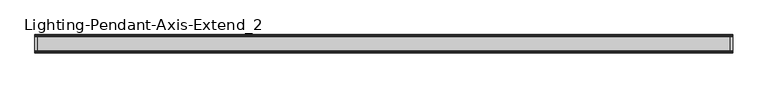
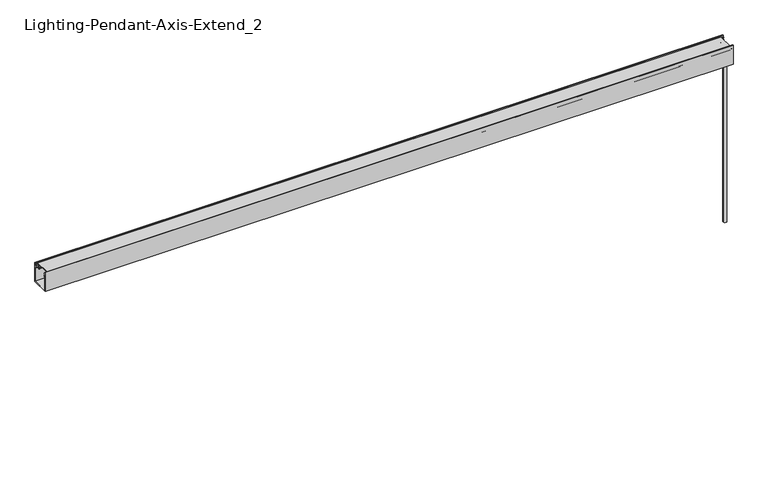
"""IFC4 building model written with IfcOpenShell, lengths in millimetres: light fixture geometry, Lighting-Pendant-Axis-Extend_2 : EX2PD-900-80-35-SO-4."""

from ifc_helpers import new_model, si_unit, point, frame, frame_2d, origin, place, context, project, spatial, polyline, circle_curve, trimmed, segment, composite_curve, outline, extrude, source, transform, mapped, element, save
from ifc_brep_helpers import plane_surface, cylinder_surface, advanced_brep


def lighting_pendant_axis_extend_2_0f88a3bf(model_context):
    return source(origin(), model_context, "Body", "SolidModel", [
        advanced_brep(
        [(1223.772, 0.0, 609.6), (1211.072, 0.0, 609.6), (1217.422, 0.0, 609.6), (1223.772, 0.0, 0.0), (1211.072, 0.0, 0.0), (1217.422, 0.0, 0.0)],
        [
            (0, 1, circle_curve(frame((1217.422, 0.0, 609.6), z_axis=(0.0, 0.0, 1.0), x_axis=(-1.0, 0.0, 0.0)), 6.35)),
            (1, 2),
            (2, 0),
            (1, 0, circle_curve(frame((1217.422, 0.0, 609.6), z_axis=(0.0, 0.0, 1.0), x_axis=(-1.0, 0.0, 0.0)), 6.35)),
            (3, 4, circle_curve(frame((1217.422, 0.0, 0.0), z_axis=(0.0, 0.0, 1.0), x_axis=(-1.0, 0.0, 0.0)), 6.35)),
            (4, 1),
            (0, 3),
            (4, 3, circle_curve(frame((1217.422, 0.0, 0.0), z_axis=(0.0, 0.0, 1.0), x_axis=(-1.0, 0.0, 0.0)), 6.35)),
            (5, 4),
            (3, 5),
        ],
        [
            plane_surface(frame((1217.422, 0.0, 609.6), z_axis=(0.0, 0.0, 1.0), x_axis=(-1.0, 0.0, 0.0))),
            cylinder_surface(frame((1217.422, 0.0, 2913.8581012), z_axis=(0.0, 0.0, -1.0), x_axis=(-1.0, 0.0, 0.0)), 6.35),
            plane_surface(frame((1217.422, 0.0, 0.0), z_axis=(0.0, 0.0, -1.0), x_axis=(-1.0, 0.0, 0.0))),
        ],
        [
            (0, [[1, 2, 3]]),
            (0, [[4, -3, -2]]),
            (1, [[5, 6, -1, 7]]),
            (1, [[8, -7, -4, -6]]),
            (2, [[9, -5, 10]]),
            (2, [[-10, -8, -9]]),
        ],
    ),
        extrude(outline(composite_curve([segment(polyline([(-24.1727262, 676.1479991), (-24.5114181, 669.6853737)]), True, "CONTINUOUS"), segment(trimmed(circle_curve(frame_2d((-27.2542, 666.6865)), 4.064), [point((-24.5114181, 669.6853737))], [point((-25.3818814, 663.0794903))], False, "CARTESIAN"), True, "CONTINUOUS"), segment(trimmed(circle_curve(frame_2d((-22.149344, 663.8683457)), 3.3274001), [point((-25.3818814, 663.0794903))], [point((-24.5665956, 661.5817575))], True, "CARTESIAN"), True, "CONTINUOUS"), segment(trimmed(circle_curve(frame_2d((-17.1303177, 668.6160708)), 10.2362001), [point((-24.5665956, 661.5817575))], [point((-23.2119066, 660.3823555))], True, "CARTESIAN"), True, "CONTINUOUS"), segment(trimmed(circle_curve(frame_2d((-23.7023573, 659.7183462)), 0.8255), [point((-23.2119066, 660.3823555))], [point((-24.192808, 659.0543369))], False, "CARTESIAN"), True, "CONTINUOUS"), segment(trimmed(circle_curve(frame_2d((-17.1303169, 668.6160717)), 11.8872013), [point((-24.192808, 659.0543369))], [point((-25.7659952, 660.4471908))], False, "CARTESIAN"), True, "CONTINUOUS"), segment(trimmed(circle_curve(frame_2d((-22.149344, 663.8683457)), 4.9784001), [point((-25.7659952, 660.4471908))], [point((-27.1108807, 664.27776))], False, "CARTESIAN"), True, "CONTINUOUS"), segment(trimmed(circle_curve(frame_2d((-27.2542, 666.6865)), 2.413), [point((-27.1108807, 664.27776))], [point((-25.4753941, 668.3169658))], True, "CARTESIAN"), True, "CONTINUOUS"), segment(trimmed(circle_curve(frame_2d((-23.6029669, 670.0332456)), 2.54), [point((-25.4753941, 668.3169658))], [point((-26.1394859, 670.1661789))], False, "CARTESIAN"), True, "CONTINUOUS"), segment(polyline([(-26.1394859, 670.1661789), (-25.825992, 676.1479991), (-28.829, 676.1479991), (-28.829, 678.053), (28.829, 678.053), (28.829, 676.1479991), (25.825992, 676.1479991), (26.1394859, 670.1661789)]), True, "CONTINUOUS"), segment(trimmed(circle_curve(frame_2d((23.6029669, 670.0332456)), 2.54), [point((26.1394859, 670.1661789))], [point((25.4753941, 668.3169658))], False, "CARTESIAN"), True, "CONTINUOUS"), segment(trimmed(circle_curve(frame_2d((27.2542, 666.6865)), 2.413), [point((25.4753941, 668.3169658))], [point((27.1108807, 664.27776))], True, "CARTESIAN"), True, "CONTINUOUS"), segment(trimmed(circle_curve(frame_2d((22.149344, 663.8683457)), 4.9784001), [point((27.1108807, 664.27776))], [point((25.7659952, 660.4471908))], False, "CARTESIAN"), True, "CONTINUOUS"), segment(trimmed(circle_curve(frame_2d((17.1303169, 668.6160717)), 11.8872013), [point((25.7659952, 660.4471908))], [point((24.192808, 659.0543369))], False, "CARTESIAN"), True, "CONTINUOUS"), segment(trimmed(circle_curve(frame_2d((23.7023573, 659.7183462)), 0.8255), [point((24.192808, 659.0543369))], [point((23.2119066, 660.3823555))], False, "CARTESIAN"), True, "CONTINUOUS"), segment(trimmed(circle_curve(frame_2d((17.1303177, 668.6160708)), 10.2362001), [point((23.2119066, 660.3823555))], [point((24.5665956, 661.5817575))], True, "CARTESIAN"), True, "CONTINUOUS"), segment(trimmed(circle_curve(frame_2d((22.149344, 663.8683457)), 3.3274001), [point((24.5665956, 661.5817575))], [point((25.3818814, 663.0794903))], True, "CARTESIAN"), True, "CONTINUOUS"), segment(trimmed(circle_curve(frame_2d((27.2542, 666.6865)), 4.064), [point((25.3818814, 663.0794903))], [point((24.5114181, 669.6853737))], False, "CARTESIAN"), True, "CONTINUOUS"), segment(polyline([(24.5114181, 669.6853737), (24.1727262, 676.1479991), (-24.1727262, 676.1479991)]), True, "CONTINUOUS")], self_intersect=False)), frame((-1219.2, 0.0, 0.0), z_axis=(1.0, 0.0, 0.0), x_axis=(0.0, 1.0, 0.0)), (0.0, 0.0, 1.0), 2438.4),
        extrude(outline(composite_curve([segment(polyline([(-29.972, 666.1277), (-29.972, 611.632), (29.972, 611.632), (29.972, 666.1277), (28.1325797, 666.1277)]), True, "CONTINUOUS"), segment(trimmed(circle_curve(frame_2d((26.6262297, 666.1277)), 1.5063501), [point((28.1325797, 666.1277))], [point((25.8730546, 664.8231626))], False, "CARTESIAN"), True, "CONTINUOUS"), segment(trimmed(circle_curve(frame_2d((27.0642121, 666.8863079)), 2.382315), [point((25.8730546, 664.8231626))], [point((24.6896516, 667.0783682))], False, "CARTESIAN"), True, "CONTINUOUS"), segment(polyline([(24.6896516, 667.0783682), (28.067, 669.9123), (28.067, 668.1597), (29.972, 668.1597), (29.972, 674.6875), (28.067, 674.6875), (28.067, 673.1635), (26.416, 673.2500252), (26.416, 675.9575), (29.972, 675.9575), (29.972, 681.0375), (32.004, 681.0375), (32.004, 609.6), (-32.004, 609.6), (-32.004, 681.0375), (-29.972, 681.0375), (-29.972, 675.9575), (-26.416, 675.9575), (-26.416, 673.2500252), (-28.067, 673.1635), (-28.067, 674.6875), (-29.972, 674.6875), (-29.972, 668.1597), (-28.067, 668.1597), (-28.067, 669.9123), (-24.6896516, 667.0783682)]), True, "CONTINUOUS"), segment(trimmed(circle_curve(frame_2d((-27.0642121, 666.8863079)), 2.382315), [point((-24.6896516, 667.0783682))], [point((-25.8730546, 664.8231626))], False, "CARTESIAN"), True, "CONTINUOUS"), segment(trimmed(circle_curve(frame_2d((-26.6262297, 666.1277)), 1.5063501), [point((-25.8730546, 664.8231626))], [point((-28.1325797, 666.1277))], False, "CARTESIAN"), True, "CONTINUOUS"), segment(polyline([(-28.1325797, 666.1277), (-29.972, 666.1277)]), True, "CONTINUOUS")], self_intersect=False)), frame((-1228.3567, 0.0, 0.0), z_axis=(1.0, 0.0, 0.0), x_axis=(0.0, 1.0, 0.0)), (0.0, 0.0, 1.0), 2456.7134),
    ])


if __name__ == "__main__":
    model = new_model("IFC4")
    model_context = context("Model", 3, world=origin())
    ifc_project = project(units=[si_unit("LENGTHUNIT", "METRE", prefix="MILLI")], contexts=[model_context])
    site = spatial("IfcSite", under=ifc_project)
    building = spatial("IfcBuilding", under=site)
    placement = place(None, origin())
    lighting_pendant_axis_extend_2_shape = lighting_pendant_axis_extend_2_0f88a3bf(model_context)
    element("IfcLightFixture", 1, ObjectType="Lighting-Pendant-Axis-Extend_2 : EX2PD-900-80-35-SO-4", at=placement, inside=building, context=model_context, shape_type="MappedRepresentation", body=[
        mapped(lighting_pendant_axis_extend_2_shape, transform((0.0, 0.0, 0.0), x_axis=(1.0, 0.0, 0.0), y_axis=(0.0, 1.0, 0.0), z_axis=(0.0, 0.0, 1.0))),
    ])
    save(model, "model.ifc")
